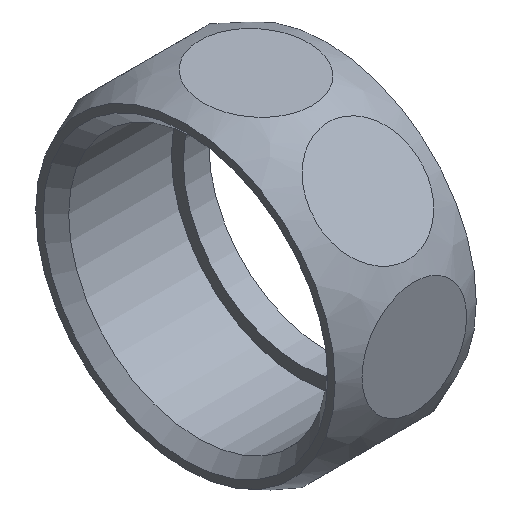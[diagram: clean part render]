
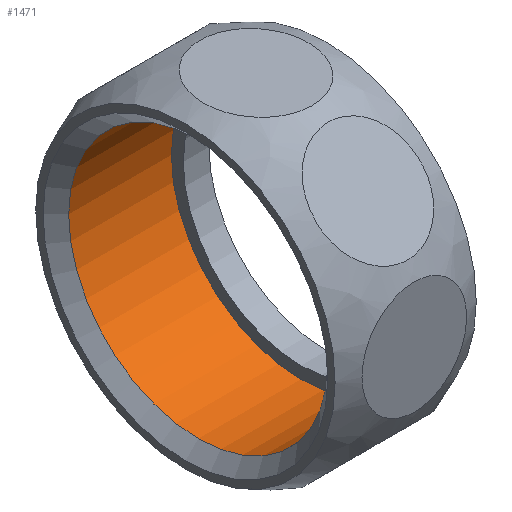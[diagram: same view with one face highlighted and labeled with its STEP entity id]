
A CAD part, isometric view. The second image highlights one B-rep face of the part: STEP entity #1471.
In plain terms, the highlighted cylindrical face has radius 15.146 mm (diameter 30.291 mm), a full revolution.
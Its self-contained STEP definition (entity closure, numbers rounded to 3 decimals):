
#1409=CARTESIAN_POINT('',(1.5,15.145,0.));
#1410=VERTEX_POINT('',#1409);
#1411=CARTESIAN_POINT('',(1.5,0.0,0.0));
#1412=DIRECTION('',(1.0,0.0,0.0));
#1413=DIRECTION('',(0.0,-1.0,0.0));
#1414=AXIS2_PLACEMENT_3D('',#1411,#1412,#1413);
#1415=CIRCLE('',#1414,15.145);
#1416=EDGE_CURVE('',#1410,#1410,#1415,.T.);
#1452=CARTESIAN_POINT('',(6.75,0.0,0.0));
#1453=DIRECTION('',(1.0,0.0,0.0));
#1454=DIRECTION('',(0.0,1.0,0.0));
#1455=AXIS2_PLACEMENT_3D('',#1452,#1453,#1454);
#1456=CYLINDRICAL_SURFACE('',#1455,15.145);
#1457=CARTESIAN_POINT('',(13.5,15.145,0.0));
#1458=VERTEX_POINT('',#1457);
#1459=CARTESIAN_POINT('',(13.5,0.0,0.0));
#1460=DIRECTION('',(1.0,0.0,0.0));
#1461=DIRECTION('',(0.0,1.0,0.0));
#1462=AXIS2_PLACEMENT_3D('',#1459,#1460,#1461);
#1463=CIRCLE('',#1462,15.145);
#1464=EDGE_CURVE('',#1458,#1458,#1463,.T.);
#1465=ORIENTED_EDGE('',*,*,#1464,.T.);
#1466=EDGE_LOOP('',(#1465));
#1467=FACE_OUTER_BOUND('',#1466,.T.);
#1468=ORIENTED_EDGE('',*,*,#1416,.F.);
#1469=EDGE_LOOP('',(#1468));
#1470=FACE_BOUND('',#1469,.T.);
#1471=ADVANCED_FACE('',(#1467,#1470),#1456,.F.);
